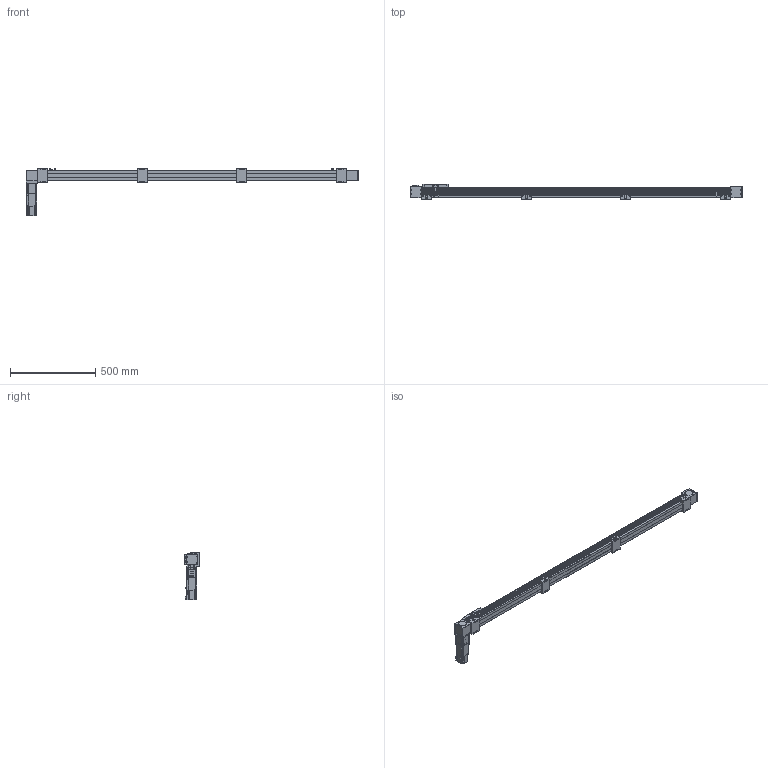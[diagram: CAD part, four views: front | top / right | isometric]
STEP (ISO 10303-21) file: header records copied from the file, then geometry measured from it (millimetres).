
FILE_DESCRIPTION(/* description */ ('STEP AP203'),/* implementation_level */ '2;1');
FILE_NAME(/* name */ 'SK60-P13-S1650-BR-T40-C1-N(0)',/* time_stamp */ '2023-04-06T04:00:17+02:00',/* author */ ('License CC BY-ND 4.0'),/* organization */ ('CADENAS'),/* preprocessor_version */ 'ST-DEVELOPER v19.3',/* originating_system */ 'PARTsolutions',/* authorisation */ ' ');
FILE_SCHEMA (('CONFIG_CONTROL_DESIGN'));
Length unit declared in the file: millimetre
Products named in the file (11): SK60-P13-S1650-BR-T40-C1-N(0); PSC140-sensor; SK60-S450_seat; SK60-S450-BL-C1_slider; SK60_body3; SK60_body6; SK60-BL_body2; T40-p1; SK60_body5; SK60_body4; SK60-S1650-BR-C1_body
Assembly tree (19 placements, depth 2):
  SK60-P13-S1650-BR-T40-C1-N(0)
    PSC140-sensor  x3
    SK60-S450_seat  x4
    SK60-S450-BL-C1_slider
    SK60_body3  x3
    SK60_body6  x2
    SK60-BL_body2  x2
    T40-p1
    SK60_body5
    SK60_body4
    SK60-S1650-BR-C1_body
Bounding box: 1950 x 90 x 279.1 mm (x, y, z)
Volume: 7245848.8 mm3; surface area: 924427.5 mm2
Topology: 19 solids, 23 shells, 922 faces, 2305 edges, 1522 vertices
Faces by surface type: plane 592, cylinder 298, cone 30, torus 2
Full cylindrical faces by diameter (mm): 2.8 x3, 3.3 x4, 4.2 x8, 4.5 x26, 4.6 x3, 4.917 x24, 5 x2, 5.478 x4, 5.5 x27, 6.5 x8, 8 x4, 8.5 x4, 9.988 x4, 10 x16, 13.556 x1, 14 x1, 14.586 x1, 19.692 x1, 38.432 x2, 43 x1, 44 x3, 47 x2, 50 x2
Entity records: 19387 total; most frequent: DIRECTION 3296, CARTESIAN_POINT 3291, ORIENTED_EDGE 3050, EDGE_CURVE 1525, AXIS2_PLACEMENT_3D 1102, LINE 1092, VECTOR 1092, VERTEX_POINT 1077
